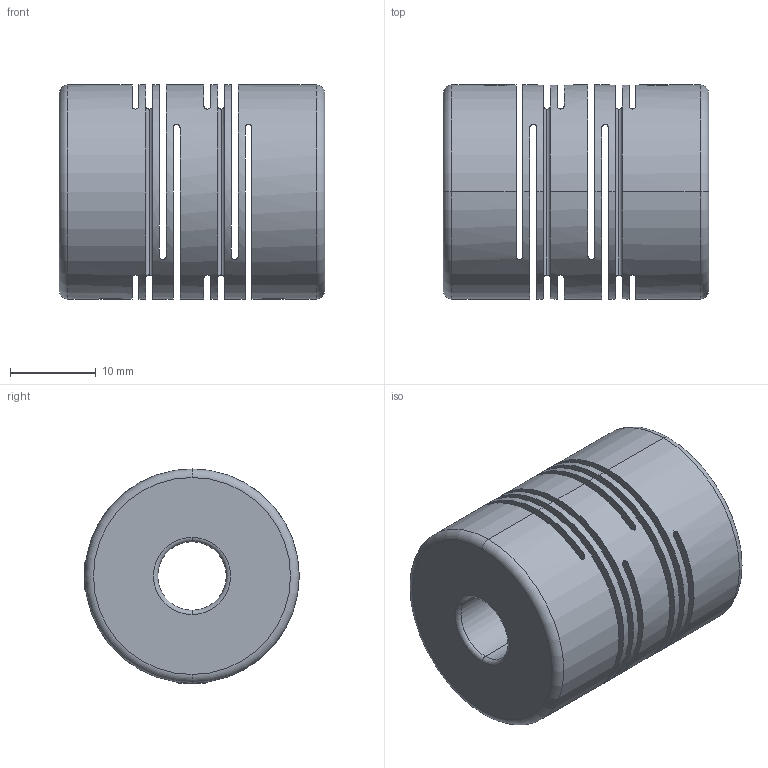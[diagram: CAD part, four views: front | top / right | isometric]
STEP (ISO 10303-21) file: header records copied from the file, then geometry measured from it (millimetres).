
FILE_DESCRIPTION (( 'STEP AP203' ), '1' );
FILE_NAME ('FSMML25-8x8.STEP', '2013-12-23T08:20:54', ( '123' ), ( '' ), 'SwSTEP 2.0', 'SolidWorks 2013', '' );
FILE_SCHEMA (( 'CONFIG_CONTROL_DESIGN' ));
Length unit declared in the file: millimetre
Products named in the file (1): FSMML25-8x8
Bounding box: 31 x 25 x 25 mm (x, y, z)
Surface area: 9542.1 mm2 (no closed solid volume)
Topology: 0 solids, 7 shells, 104 faces, 318 edges, 216 vertices
Faces by surface type: plane 46, cylinder 30, cone 12, bspline 8, torus 8
Entity records: 4383 total; most frequent: CARTESIAN_POINT 1497, DIRECTION 568, ORIENTED_EDGE 560, EDGE_CURVE 318, AXIS2_PLACEMENT_3D 217, VERTEX_POINT 216, VECTOR 134, LINE 134
